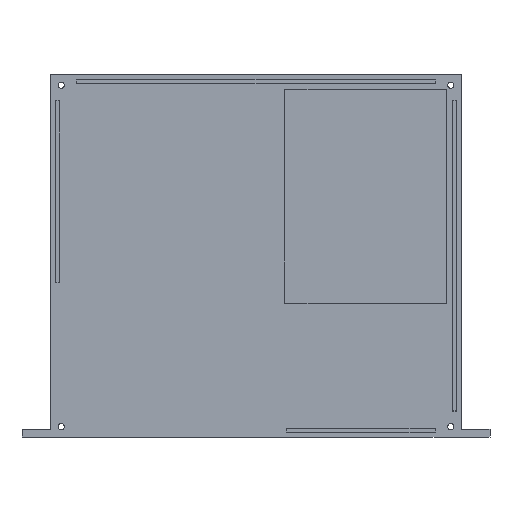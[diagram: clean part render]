
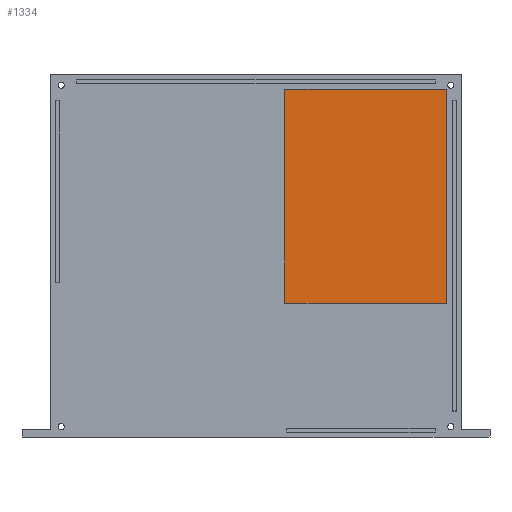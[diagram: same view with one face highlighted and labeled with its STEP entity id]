
A CAD part, top view. The second image highlights one B-rep face of the part: STEP entity #1334.
In plain terms, the highlighted planar face has unit normal (0, 0, 1).
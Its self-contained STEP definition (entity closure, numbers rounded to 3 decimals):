
#165=DIRECTION('',(0.,-1.,0.));
#166=VECTOR('',#165,111.);
#167=CARTESIAN_POINT('',(-4.4,96.7,-51.5));
#168=LINE('',#167,#166);
#169=DIRECTION('',(-1.,0.,0.));
#170=VECTOR('',#169,84.);
#171=CARTESIAN_POINT('',(79.6,96.7,-51.5));
#172=LINE('',#171,#170);
#173=DIRECTION('',(0.,1.,0.));
#174=VECTOR('',#173,111.);
#175=CARTESIAN_POINT('',(79.6,-14.3,-51.5));
#176=LINE('',#175,#174);
#177=DIRECTION('',(1.,0.,0.));
#178=VECTOR('',#177,84.);
#179=CARTESIAN_POINT('',(-4.4,-14.3,-51.5));
#180=LINE('',#179,#178);
#905=CARTESIAN_POINT('',(-4.4,96.7,-51.5));
#906=CARTESIAN_POINT('',(-4.4,-14.3,-51.5));
#907=VERTEX_POINT('',#905);
#908=VERTEX_POINT('',#906);
#909=CARTESIAN_POINT('',(79.6,-14.3,-51.5));
#910=VERTEX_POINT('',#909);
#911=CARTESIAN_POINT('',(79.6,96.7,-51.5));
#912=VERTEX_POINT('',#911);
#1323=CARTESIAN_POINT('',(0.,0.,-51.5));
#1324=DIRECTION('',(0.,0.,1.));
#1325=DIRECTION('',(1.,0.,0.));
#1326=AXIS2_PLACEMENT_3D('',#1323,#1324,#1325);
#1327=PLANE('',#1326);
#1328=ORIENTED_EDGE('',*,*,#1317,.F.);
#1329=ORIENTED_EDGE('',*,*,#1275,.F.);
#1330=ORIENTED_EDGE('',*,*,#1290,.F.);
#1331=ORIENTED_EDGE('',*,*,#1304,.F.);
#1332=EDGE_LOOP('',(#1328,#1329,#1330,#1331));
#1333=FACE_OUTER_BOUND('',#1332,.F.);
#1334=ADVANCED_FACE('',(#1333),#1327,.T.);
#1275=EDGE_CURVE('',#912,#907,#172,.T.);
#1290=EDGE_CURVE('',#910,#912,#176,.T.);
#1304=EDGE_CURVE('',#908,#910,#180,.T.);
#1317=EDGE_CURVE('',#907,#908,#168,.T.);
